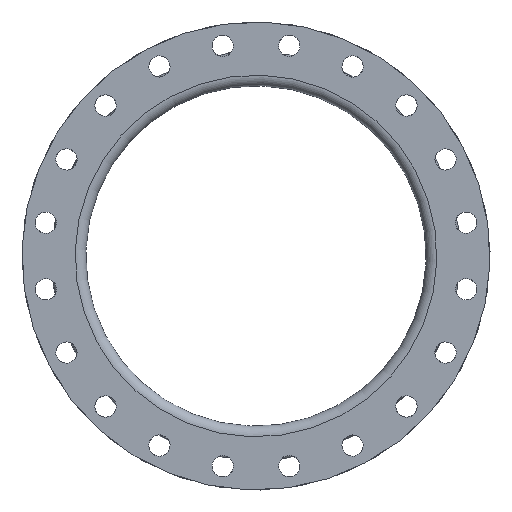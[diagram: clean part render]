
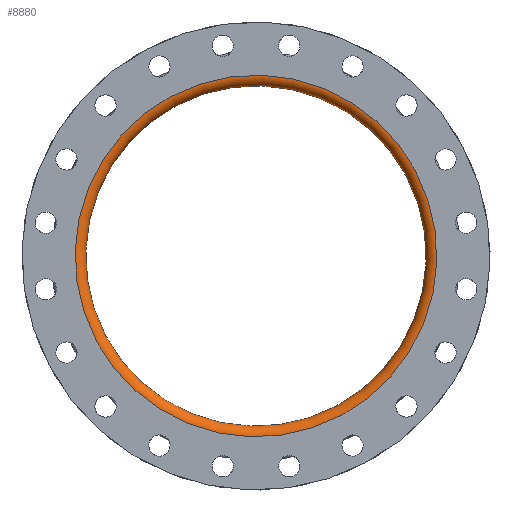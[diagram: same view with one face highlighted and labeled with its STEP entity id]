
A CAD part, left-side view. The second image highlights one B-rep face of the part: STEP entity #8880.
In plain terms, the highlighted toroidal (fillet/blend) face has major radius 269.875 mm and minor radius 15.875 mm.
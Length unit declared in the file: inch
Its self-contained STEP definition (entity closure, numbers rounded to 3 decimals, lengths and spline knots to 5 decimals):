
#8237=CARTESIAN_POINT('',(-6.,10.625,0.0));
#8238=VERTEX_POINT('',#8237);
#8239=CARTESIAN_POINT('',(-6.,0.,0.0));
#8240=DIRECTION('',(1.0,0.0,0.0));
#8241=DIRECTION('',(0.0,1.0,0.0));
#8242=AXIS2_PLACEMENT_3D('',#8239,#8240,#8241);
#8243=CIRCLE('',#8242,10.625);
#8244=EDGE_CURVE('',#8238,#8238,#8243,.T.);
#8854=CARTESIAN_POINT('',(-5.375,10.,0.0));
#8855=VERTEX_POINT('',#8854);
#8856=CARTESIAN_POINT('',(-5.375,0.,0.0));
#8857=DIRECTION('',(1.0,0.0,0.0));
#8858=DIRECTION('',(0.0,1.0,0.0));
#8859=AXIS2_PLACEMENT_3D('',#8856,#8857,#8858);
#8860=CIRCLE('',#8859,10.);
#8861=EDGE_CURVE('',#8855,#8855,#8860,.T.);
#8869=CARTESIAN_POINT('',(-5.375,0.0,0.0));
#8870=DIRECTION('',(1.0,0.,0.0));
#8871=DIRECTION('',(0.0,0.0,-1.0));
#8872=AXIS2_PLACEMENT_3D('',#8869,#8870,#8871);
#8873=TOROIDAL_SURFACE('',#8872,10.625,0.625);
#8874=ORIENTED_EDGE('',*,*,#8244,.F.);
#8875=EDGE_LOOP('',(#8874));
#8876=FACE_OUTER_BOUND('',#8875,.T.);
#8877=ORIENTED_EDGE('',*,*,#8861,.T.);
#8878=EDGE_LOOP('',(#8877));
#8879=FACE_BOUND('',#8878,.T.);
#8880=ADVANCED_FACE('',(#8876,#8879),#8873,.T.);
